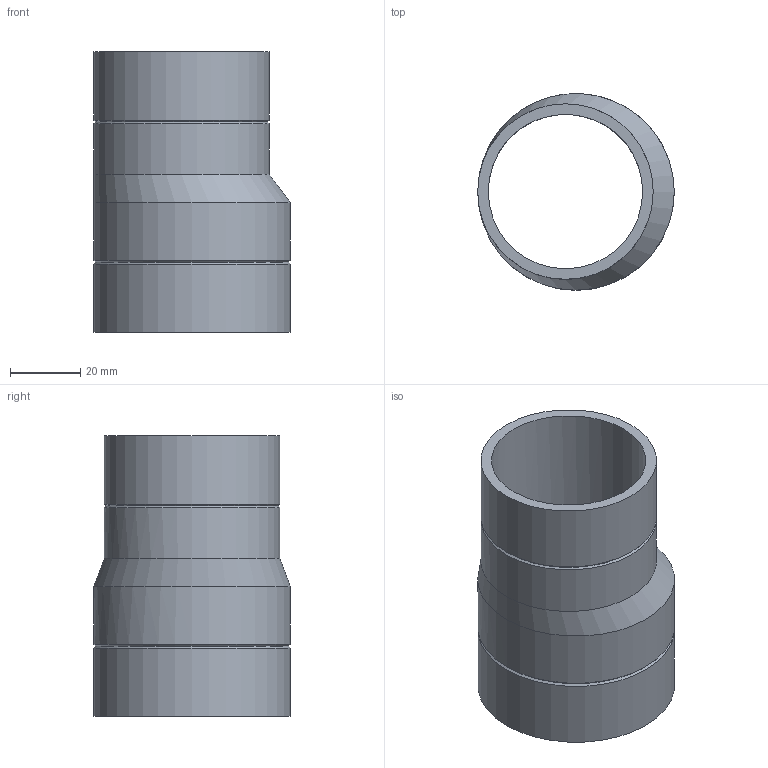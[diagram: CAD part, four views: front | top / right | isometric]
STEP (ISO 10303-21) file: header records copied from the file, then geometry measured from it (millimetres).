
FILE_DESCRIPTION(/* description */ (''),/* implementation_level */ '2;1');
FILE_NAME(/* name */ 'Z:\Geberit\Export\NewStep\363561.stp',/* time_stamp */ '2014-04-01T21:09:27+02:00',/* author */ ('nelson'),/* organization */ (''),/* preprocessor_version */ 'ST-DEVELOPER v15.2',/* originating_system */ 'Autodesk Inventor 2014',/* authorisation */ '');
FILE_SCHEMA (('AUTOMOTIVE_DESIGN { 1 0 10303 214 3 1 1 }'));
Length unit declared in the file: millimetre
Products named in the file (1): 363561
Bounding box: 56 x 56 x 80 mm (x, y, z)
Volume: 37661 mm3; surface area: 26497.7 mm2
Topology: 1 solids, 1 shells, 14 faces, 35 edges, 23 vertices
Faces by surface type: cylinder 6, cone 4, bspline 2, plane 2
Full cylindrical faces by diameter (mm): 44 x1, 50 x3, 56 x2
Entity records: 397 total; most frequent: CARTESIAN_POINT 89, DIRECTION 62, ORIENTED_EDGE 40, AXIS2_PLACEMENT_3D 31, EDGE_LOOP 26, EDGE_CURVE 20, CIRCLE 18, VERTEX_POINT 18
